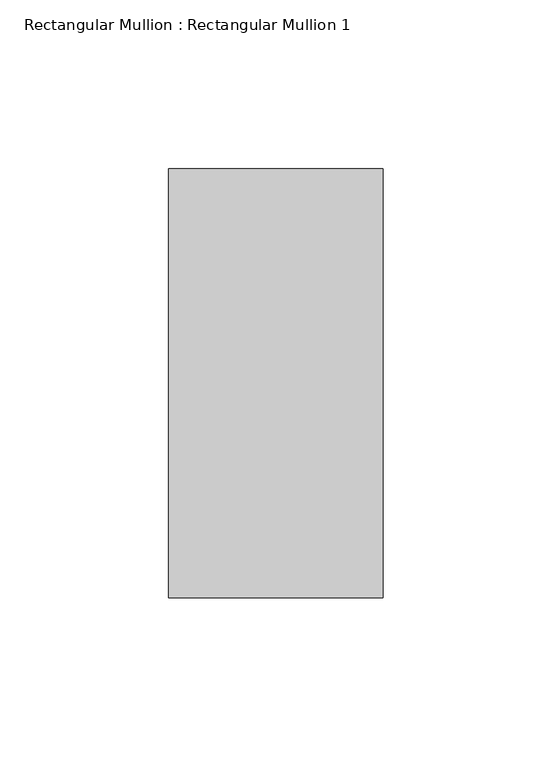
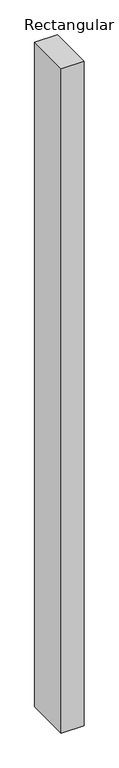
"""IFC4 building model written with IfcOpenShell, lengths in millimetres: member geometry, Rectangular Mullion : Rectangular Mullion 1."""

from ifc_helpers import new_model, si_unit, frame, origin, place, context, project, spatial, polyline, outline, extrude, source, transform, mapped, element, save


def rectangular_mullion_rectangular_mullion_1_369ed99d(model_context):
    return source(origin(), model_context, "Body", "SweptSolid", [
        extrude(outline(polyline([(31.75, 63.5), (31.75, -63.5), (-31.75, -63.5), (-31.75, 63.5), (31.75, 63.5)])), frame((0.0, 0.0, -1948.2242938), z_axis=(0.0, 0.0, 1.0), x_axis=(1.0, 0.0, 0.0)), (0.0, 0.0, 1.0), 1948.2242938),
    ])


if __name__ == "__main__":
    model = new_model("IFC4")
    model_context = context("Model", 3, world=origin())
    ifc_project = project(units=[si_unit("LENGTHUNIT", "METRE", prefix="MILLI")], contexts=[model_context])
    site = spatial("IfcSite", under=ifc_project)
    building = spatial("IfcBuilding", under=site)
    placement = place(None, origin())
    rectangular_mullion_rectangular_mullion_1_shape = rectangular_mullion_rectangular_mullion_1_369ed99d(model_context)
    element("IfcMember", 1, ObjectType="Rectangular Mullion : Rectangular Mullion 1", at=placement, inside=building, context=model_context, shape_type="MappedRepresentation", body=[
        mapped(rectangular_mullion_rectangular_mullion_1_shape, transform((0.0, 0.0, 0.0), x_axis=(1.0, 0.0, 0.0), y_axis=(0.0, 1.0, 0.0), z_axis=(0.0, 0.0, 1.0))),
    ])
    save(model, "model.ifc")
